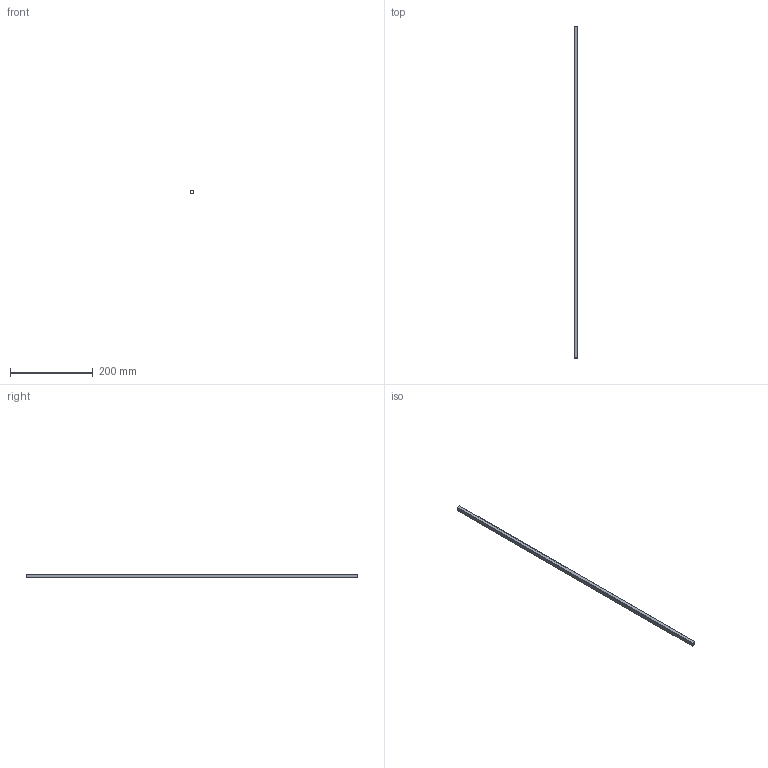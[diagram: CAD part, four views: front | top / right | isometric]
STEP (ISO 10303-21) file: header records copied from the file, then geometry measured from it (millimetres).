
FILE_DESCRIPTION(/* description */ ('9mm角ﾊﾟｲﾌﾟL800'),/* implementation_level */ '2;1');
FILE_NAME(/* name */ 'Q503-9-800.step',/* time_stamp */ '2026-04-10T16:52:56+09:00',/* author */ (''),/* organization */ (''),/* preprocessor_version */ 'ST-DEVELOPER v20.1',/* originating_system */ 'Autodesk Translation Framework v14.24.0.0',/* authorisation */ '');
FILE_SCHEMA (('AUTOMOTIVE_DESIGN { 1 0 10303 214 3 1 1 }'));
Length unit declared in the file: millimetre
Products named in the file (1): 2026-04-10-15-11-36-801
Bounding box: 9 x 800 x 9 mm (x, y, z)
Volume: 25600 mm3; surface area: 51264 mm2
Topology: 1 solids, 1 shells, 10 faces, 24 edges, 16 vertices
Faces by surface type: plane 10
Entity records: 433 total; most frequent: CARTESIAN_POINT 51, ORIENTED_EDGE 48, DIRECTION 46, LINE 24, VECTOR 24, EDGE_CURVE 24, PROPERTY_DEFINITION 18, PROPERTY_DEFINITION_REPRESENTATION 17
